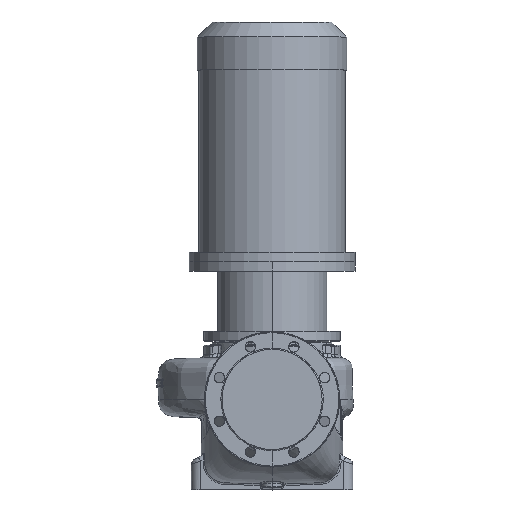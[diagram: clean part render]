
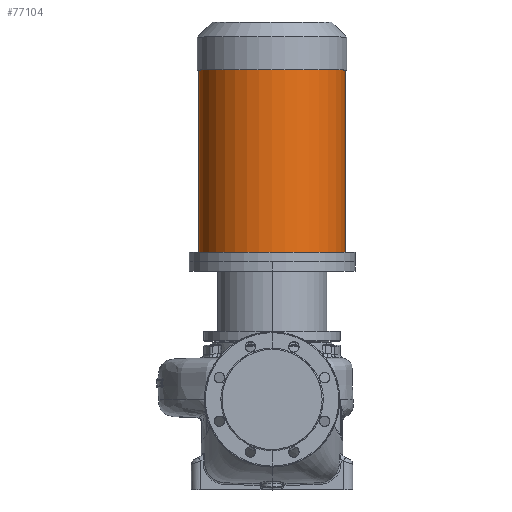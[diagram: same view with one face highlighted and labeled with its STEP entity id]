
A CAD part, top view. The second image highlights one B-rep face of the part: STEP entity #77104.
In plain terms, the highlighted cylindrical face has radius 154.5 mm (diameter 309 mm), a partial arc.
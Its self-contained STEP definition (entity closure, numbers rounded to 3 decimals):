
#3269 = DIRECTION ( 'NONE',  ( -1., 0., 0. ) ) ;
#3918 = VERTEX_POINT ( 'NONE', #73408 ) ;
#5330 = AXIS2_PLACEMENT_3D ( 'NONE', #13626, #56039, #3269 ) ;
#5433 = VECTOR ( 'NONE', #16944, 1000. ) ;
#9208 = ORIENTED_EDGE ( 'NONE', *, *, #46130, .T. ) ;
#9535 = EDGE_CURVE ( 'NONE', #75407, #3918, #37397, .T. ) ;
#12364 = EDGE_CURVE ( 'NONE', #63147, #3918, #20680, .T. ) ;
#13626 = CARTESIAN_POINT ( 'NONE',  ( 0., 694.8, 0. ) ) ;
#16097 = DIRECTION ( 'NONE',  ( -1., 0., 0. ) ) ;
#16944 = DIRECTION ( 'NONE',  ( 0., -1., 0. ) ) ;
#18413 = VERTEX_POINT ( 'NONE', #44574 ) ;
#20680 = CIRCLE ( 'NONE', #48380, 154.5 ) ;
#22990 = DIRECTION ( 'NONE',  ( 0., -1., 0. ) ) ;
#24905 = DIRECTION ( 'NONE',  ( 0., -1., 0. ) ) ;
#29159 = LINE ( 'NONE', #47181, #5433 ) ;
#30941 = EDGE_LOOP ( 'NONE', ( #62259, #9208, #32630, #46641 ) ) ;
#31014 = DIRECTION ( 'NONE',  ( -1., 0., 0. ) ) ;
#31545 = CARTESIAN_POINT ( 'NONE',  ( 0., 310.8, 0. ) ) ;
#32630 = ORIENTED_EDGE ( 'NONE', *, *, #9535, .T. ) ;
#35480 = VECTOR ( 'NONE', #48694, 1000. ) ;
#36926 = FACE_OUTER_BOUND ( 'NONE', #30941, .T. ) ;
#36949 = AXIS2_PLACEMENT_3D ( 'NONE', #52686, #22990, #16097 ) ;
#37397 = LINE ( 'NONE', #49736, #35480 ) ;
#43535 = CYLINDRICAL_SURFACE ( 'NONE', #36949, 154.5 ) ;
#44574 = CARTESIAN_POINT ( 'NONE',  ( 154.5, 694.8, 0. ) ) ;
#46130 = EDGE_CURVE ( 'NONE', #18413, #75407, #50676, .T. ) ;
#46641 = ORIENTED_EDGE ( 'NONE', *, *, #12364, .F. ) ;
#47181 = CARTESIAN_POINT ( 'NONE',  ( 154.5, 290.8, 0. ) ) ;
#48380 = AXIS2_PLACEMENT_3D ( 'NONE', #31545, #24905, #31014 ) ;
#48694 = DIRECTION ( 'NONE',  ( 0., -1., 0. ) ) ;
#49736 = CARTESIAN_POINT ( 'NONE',  ( -154.5, 290.8, 0. ) ) ;
#50676 = CIRCLE ( 'NONE', #5330, 154.5 ) ;
#52686 = CARTESIAN_POINT ( 'NONE',  ( 0., 290.8, 0. ) ) ;
#55390 = CARTESIAN_POINT ( 'NONE',  ( -154.5, 694.8, 0. ) ) ;
#56039 = DIRECTION ( 'NONE',  ( 0., -1., 0. ) ) ;
#62259 = ORIENTED_EDGE ( 'NONE', *, *, #78740, .F. ) ;
#63147 = VERTEX_POINT ( 'NONE', #77221 ) ;
#73408 = CARTESIAN_POINT ( 'NONE',  ( -154.5, 310.8, 0. ) ) ;
#75407 = VERTEX_POINT ( 'NONE', #55390 ) ;
#77104 = ADVANCED_FACE ( 'NONE', ( #36926 ), #43535, .T. ) ;
#77221 = CARTESIAN_POINT ( 'NONE',  ( 154.5, 310.8, 0. ) ) ;
#78740 = EDGE_CURVE ( 'NONE', #18413, #63147, #29159, .T. ) ;
